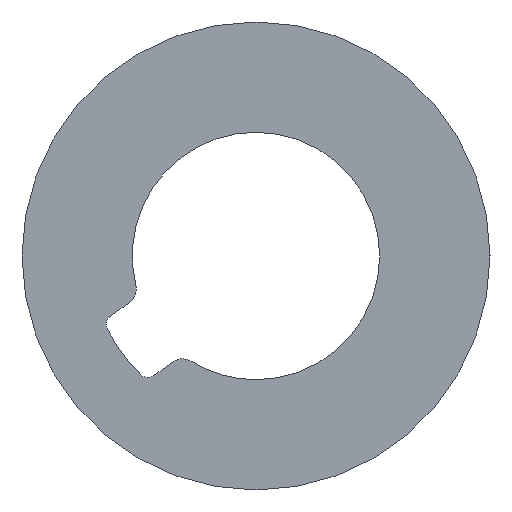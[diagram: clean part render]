
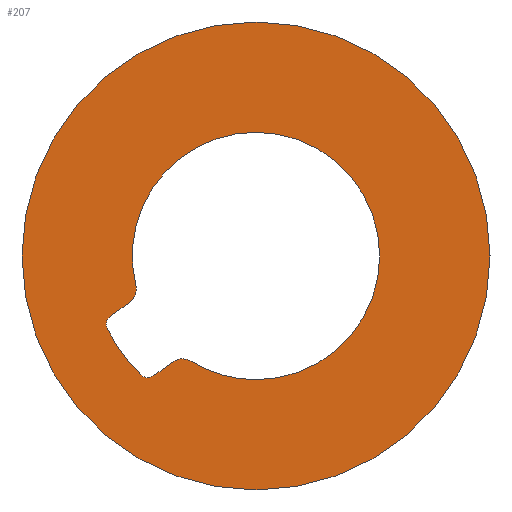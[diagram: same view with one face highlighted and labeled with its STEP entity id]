
A CAD part, left-side view. The second image highlights one B-rep face of the part: STEP entity #207.
In plain terms, the highlighted planar face has unit normal (-1, 0, 0).
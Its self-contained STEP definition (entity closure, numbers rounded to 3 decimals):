
#18 = ORIENTED_EDGE ( 'NONE', *, *, #294, .T. ) ;
#19 = ORIENTED_EDGE ( 'NONE', *, *, #291, .T. ) ;
#20 = ORIENTED_EDGE ( 'NONE', *, *, #290, .T. ) ;
#21 = ORIENTED_EDGE ( 'NONE', *, *, #278, .T. ) ;
#22 = ORIENTED_EDGE ( 'NONE', *, *, #292, .T. ) ;
#23 = ORIENTED_EDGE ( 'NONE', *, *, #293, .T. ) ;
#24 = ORIENTED_EDGE ( 'NONE', *, *, #261, .T. ) ;
#38 = CIRCLE ( 'NONE', #222, 0.3 ) ;
#40 = CIRCLE ( 'NONE', #223, 4.95 ) ;
#41 = CIRCLE ( 'NONE', #224, 0.3 ) ;
#42 = VECTOR ( 'NONE', #501, 1000. ) ;
#43 = CIRCLE ( 'NONE', #225, 0.5 ) ;
#44 = LINE ( 'NONE', #504, #42 ) ;
#45 = CIRCLE ( 'NONE', #226, 0.5 ) ;
#48 = VECTOR ( 'NONE', #525, 1000. ) ;
#49 = CIRCLE ( 'NONE', #227, 7. ) ;
#50 = LINE ( 'NONE', #453, #48 ) ;
#64 = CIRCLE ( 'NONE', #233, 3.7 ) ;
#70 = CIRCLE ( 'NONE', #236, 3.7 ) ;
#74 = CIRCLE ( 'NONE', #238, 3.7 ) ;
#80 = CIRCLE ( 'NONE', #240, 7. ) ;
#88 = CIRCLE ( 'NONE', #243, 0.3 ) ;
#118 = FACE_BOUND ( 'NONE', #147, .T. ) ;
#119 = FACE_OUTER_BOUND ( 'NONE', #146, .T. ) ;
#146 = EDGE_LOOP ( 'NONE', ( #188, #189 ) ) ;
#147 = EDGE_LOOP ( 'NONE', ( #190, #191, #192, #193, #21, #20, #19, #22, #24, #23, #18 ) ) ;
#188 = ORIENTED_EDGE ( 'NONE', *, *, #287, .F. ) ;
#189 = ORIENTED_EDGE ( 'NONE', *, *, #267, .F. ) ;
#190 = ORIENTED_EDGE ( 'NONE', *, *, #288, .T. ) ;
#191 = ORIENTED_EDGE ( 'NONE', *, *, #289, .T. ) ;
#192 = ORIENTED_EDGE ( 'NONE', *, *, #274, .T. ) ;
#193 = ORIENTED_EDGE ( 'NONE', *, *, #271, .T. ) ;
#207 = ADVANCED_FACE ( 'NONE', ( #119, #118 ), #398, .F. ) ;
#222 = AXIS2_PLACEMENT_3D ( 'NONE', #467, #464, #460 ) ;
#223 = AXIS2_PLACEMENT_3D ( 'NONE', #480, #476, #471 ) ;
#224 = AXIS2_PLACEMENT_3D ( 'NONE', #496, #490, #485 ) ;
#225 = AXIS2_PLACEMENT_3D ( 'NONE', #515, #510, #506 ) ;
#226 = AXIS2_PLACEMENT_3D ( 'NONE', #522, #521, #520 ) ;
#227 = AXIS2_PLACEMENT_3D ( 'NONE', #309, #311, #310 ) ;
#233 = AXIS2_PLACEMENT_3D ( 'NONE', #333, #332, #331 ) ;
#236 = AXIS2_PLACEMENT_3D ( 'NONE', #410, #414, #416 ) ;
#238 = AXIS2_PLACEMENT_3D ( 'NONE', #442, #432, #431 ) ;
#240 = AXIS2_PLACEMENT_3D ( 'NONE', #341, #340, #338 ) ;
#243 = AXIS2_PLACEMENT_3D ( 'NONE', #362, #361, #359 ) ;
#252 = AXIS2_PLACEMENT_3D ( 'NONE', #397, #396, #395 ) ;
#261 = EDGE_CURVE ( 'NONE', #364, #448, #88, .T. ) ;
#267 = EDGE_CURVE ( 'NONE', #434, #447, #80, .T. ) ;
#271 = EDGE_CURVE ( 'NONE', #347, #449, #74, .T. ) ;
#274 = EDGE_CURVE ( 'NONE', #358, #347, #70, .T. ) ;
#278 = EDGE_CURVE ( 'NONE', #449, #452, #64, .T. ) ;
#287 = EDGE_CURVE ( 'NONE', #447, #434, #49, .T. ) ;
#288 = EDGE_CURVE ( 'NONE', #433, #430, #50, .T. ) ;
#289 = EDGE_CURVE ( 'NONE', #430, #358, #45, .T. ) ;
#290 = EDGE_CURVE ( 'NONE', #452, #370, #43, .T. ) ;
#291 = EDGE_CURVE ( 'NONE', #370, #368, #44, .T. ) ;
#292 = EDGE_CURVE ( 'NONE', #368, #364, #41, .T. ) ;
#293 = EDGE_CURVE ( 'NONE', #448, #367, #40, .T. ) ;
#294 = EDGE_CURVE ( 'NONE', #367, #433, #38, .T. ) ;
#309 = CARTESIAN_POINT ( 'NONE',  ( -85.5, 0., 0. ) ) ;
#310 = DIRECTION ( 'NONE',  ( 0., 0., -1. ) ) ;
#311 = DIRECTION ( 'NONE',  ( 1., 0., 0. ) ) ;
#331 = DIRECTION ( 'NONE',  ( 0., 0., -1. ) ) ;
#332 = DIRECTION ( 'NONE',  ( 1., 0., 0. ) ) ;
#333 = CARTESIAN_POINT ( 'NONE',  ( -85.5, 0., 0. ) ) ;
#338 = DIRECTION ( 'NONE',  ( 0., 0., -1. ) ) ;
#340 = DIRECTION ( 'NONE',  ( 1., 0., 0. ) ) ;
#341 = CARTESIAN_POINT ( 'NONE',  ( -85.5, 0., 0. ) ) ;
#347 = VERTEX_POINT ( 'NONE', #517 ) ;
#358 = VERTEX_POINT ( 'NONE', #513 ) ;
#359 = DIRECTION ( 'NONE',  ( 0., 0., 1. ) ) ;
#361 = DIRECTION ( 'NONE',  ( 1., 0., 0. ) ) ;
#362 = CARTESIAN_POINT ( 'NONE',  ( -85.5, 3.236, -3.34 ) ) ;
#364 = VERTEX_POINT ( 'NONE', #512 ) ;
#367 = VERTEX_POINT ( 'NONE', #511 ) ;
#368 = VERTEX_POINT ( 'NONE', #509 ) ;
#370 = VERTEX_POINT ( 'NONE', #508 ) ;
#395 = DIRECTION ( 'NONE',  ( 0., 0., -1. ) ) ;
#396 = DIRECTION ( 'NONE',  ( 1., 0., 0. ) ) ;
#397 = CARTESIAN_POINT ( 'NONE',  ( -85.5, 0., 0. ) ) ;
#398 = PLANE ( 'NONE',  #252 ) ;
#410 = CARTESIAN_POINT ( 'NONE',  ( -85.5, 0., 0. ) ) ;
#414 = DIRECTION ( 'NONE',  ( 1., 0., 0. ) ) ;
#416 = DIRECTION ( 'NONE',  ( 0., 0., -1. ) ) ;
#430 = VERTEX_POINT ( 'NONE', #507 ) ;
#431 = DIRECTION ( 'NONE',  ( 0., 0., -1. ) ) ;
#432 = DIRECTION ( 'NONE',  ( 1., 0., 0. ) ) ;
#433 = VERTEX_POINT ( 'NONE', #505 ) ;
#434 = VERTEX_POINT ( 'NONE', #503 ) ;
#442 = CARTESIAN_POINT ( 'NONE',  ( -85.5, 0., 0. ) ) ;
#447 = VERTEX_POINT ( 'NONE', #491 ) ;
#448 = VERTEX_POINT ( 'NONE', #489 ) ;
#449 = VERTEX_POINT ( 'NONE', #488 ) ;
#452 = VERTEX_POINT ( 'NONE', #484 ) ;
#453 = CARTESIAN_POINT ( 'NONE',  ( -85.5, 3.788, -1.393 ) ) ;
#460 = DIRECTION ( 'NONE',  ( 0., 0., -1. ) ) ;
#464 = DIRECTION ( 'NONE',  ( 1., 0., 0. ) ) ;
#467 = CARTESIAN_POINT ( 'NONE',  ( -85.5, 4.176, -2.045 ) ) ;
#471 = DIRECTION ( 'NONE',  ( 0., 0., 1. ) ) ;
#476 = DIRECTION ( 'NONE',  ( 1., 0., 0. ) ) ;
#480 = CARTESIAN_POINT ( 'NONE',  ( -85.5, 0., 0. ) ) ;
#484 = CARTESIAN_POINT ( 'NONE',  ( -85.5, 1.939, -3.151 ) ) ;
#485 = DIRECTION ( 'NONE',  ( 0., 0., 1. ) ) ;
#488 = CARTESIAN_POINT ( 'NONE',  ( -85.5, 0., -3.7 ) ) ;
#489 = CARTESIAN_POINT ( 'NONE',  ( -85.5, 3.444, -3.555 ) ) ;
#490 = DIRECTION ( 'NONE',  ( 1., 0., 0. ) ) ;
#491 = CARTESIAN_POINT ( 'NONE',  ( -85.5, 0., 7. ) ) ;
#496 = CARTESIAN_POINT ( 'NONE',  ( -85.5, 3.236, -3.34 ) ) ;
#501 = DIRECTION ( 'NONE',  ( 0., 0.809, -0.588 ) ) ;
#503 = CARTESIAN_POINT ( 'NONE',  ( -85.5, 0., -7. ) ) ;
#504 = CARTESIAN_POINT ( 'NONE',  ( -85.5, 3.059, -3.582 ) ) ;
#505 = CARTESIAN_POINT ( 'NONE',  ( -85.5, 4.352, -1.803 ) ) ;
#506 = DIRECTION ( 'NONE',  ( 0., 0., -1. ) ) ;
#507 = CARTESIAN_POINT ( 'NONE',  ( -85.5, 3.788, -1.393 ) ) ;
#508 = CARTESIAN_POINT ( 'NONE',  ( -85.5, 2.495, -3.172 ) ) ;
#509 = CARTESIAN_POINT ( 'NONE',  ( -85.5, 3.059, -3.582 ) ) ;
#510 = DIRECTION ( 'NONE',  ( -1., 0., 0. ) ) ;
#511 = CARTESIAN_POINT ( 'NONE',  ( -85.5, 4.445, -2.177 ) ) ;
#512 = CARTESIAN_POINT ( 'NONE',  ( -85.5, 3.236, -3.64 ) ) ;
#513 = CARTESIAN_POINT ( 'NONE',  ( -85.5, 3.596, -0.87 ) ) ;
#515 = CARTESIAN_POINT ( 'NONE',  ( -85.5, 2.201, -3.577 ) ) ;
#517 = CARTESIAN_POINT ( 'NONE',  ( -85.5, 0., 3.7 ) ) ;
#520 = DIRECTION ( 'NONE',  ( 0., 0., 1. ) ) ;
#521 = DIRECTION ( 'NONE',  ( -1., 0., 0. ) ) ;
#522 = CARTESIAN_POINT ( 'NONE',  ( -85.5, 4.082, -0.988 ) ) ;
#525 = DIRECTION ( 'NONE',  ( 0., -0.809, 0.588 ) ) ;
